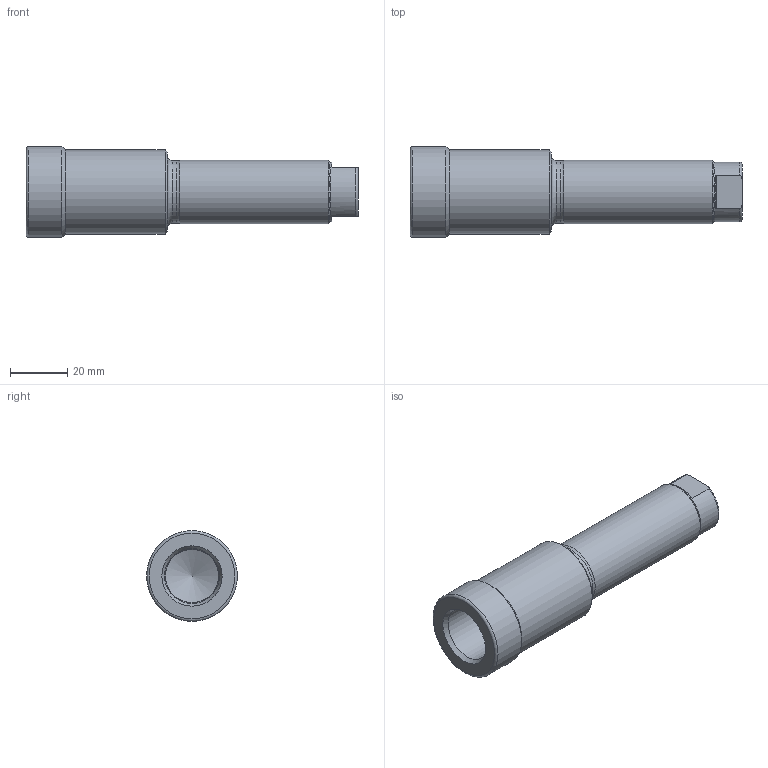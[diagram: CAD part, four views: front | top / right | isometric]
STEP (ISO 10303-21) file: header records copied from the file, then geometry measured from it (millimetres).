
FILE_DESCRIPTION(/* description */ ('NOT SPECIFIED'),/* implementation_level */ '2;1');
FILE_NAME(/* name */ 'PA1815040 cyinder.stp',/* time_stamp */ '2026-03-15T09:34:35-03:00',/* author */ ('cpEwe'),/* organization */ (''),/* preprocessor_version */ 'ST-DEVELOPER v20.1',/* originating_system */ 'Autodesk Inventor 2026',/* authorisation */ '');
FILE_SCHEMA (('AUTOMOTIVE_DESIGN { 1 0 10303 214 3 1 1 }'));
Length unit declared in the file: inch
Products named in the file (1): PA1815040.STP
Bounding box: 115.82 x 31.7 x 31.7 mm (x, y, z)
Volume: 44358.9 mm3; surface area: 14804.6 mm2
Topology: 1 solids, 2 shells, 31 faces, 81 edges, 54 vertices
Faces by surface type: cylinder 10, plane 8, cone 7, torus 6
Full cylindrical faces by diameter (mm): 11.509 x1, 12.7 x1, 19.139 x1, 20.701 x1, 21.717 x1, 22.2 x1, 29.337 x1, 31.699 x1
Entity records: 1167 total; most frequent: CARTESIAN_POINT 341, DIRECTION 177, ORIENTED_EDGE 155, EDGE_CURVE 79, AXIS2_PLACEMENT_3D 76, VERTEX_POINT 54, CIRCLE 44, EDGE_LOOP 35
